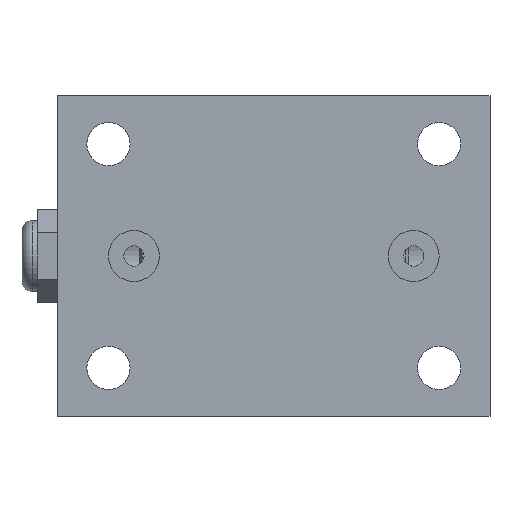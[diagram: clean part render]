
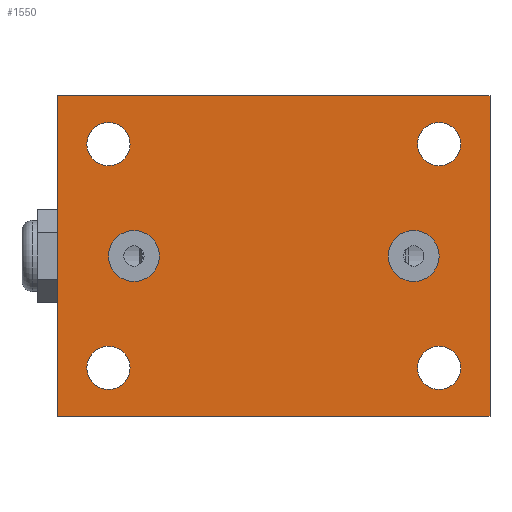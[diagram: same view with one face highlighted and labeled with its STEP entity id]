
A CAD part, front view. The second image highlights one B-rep face of the part: STEP entity #1550.
In plain terms, the highlighted planar face has unit normal (0, -1, 0).
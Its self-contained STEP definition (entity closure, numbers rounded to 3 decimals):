
#11 = CIRCLE ( 'NONE', #1976, 4.25 ) ;
#22 = DIRECTION ( 'NONE',  ( 0., 0., 1. ) ) ;
#25 = EDGE_CURVE ( 'NONE', #1127, #775, #602, .T. ) ;
#35 = CIRCLE ( 'NONE', #270, 4.25 ) ;
#39 = DIRECTION ( 'NONE',  ( 0., 1., 0. ) ) ;
#76 = ORIENTED_EDGE ( 'NONE', *, *, #1899, .F. ) ;
#85 = DIRECTION ( 'NONE',  ( 0., 1., 0. ) ) ;
#94 = CIRCLE ( 'NONE', #1107, 5. ) ;
#95 = ORIENTED_EDGE ( 'NONE', *, *, #1892, .F. ) ;
#103 = FACE_BOUND ( 'NONE', #1316, .T. ) ;
#113 = ORIENTED_EDGE ( 'NONE', *, *, #463, .T. ) ;
#120 = CARTESIAN_POINT ( 'NONE',  ( -32.5, 0., 22. ) ) ;
#140 = ORIENTED_EDGE ( 'NONE', *, *, #2021, .T. ) ;
#142 = ORIENTED_EDGE ( 'NONE', *, *, #25, .F. ) ;
#165 = DIRECTION ( 'NONE',  ( 0., 0., 1. ) ) ;
#181 = CARTESIAN_POINT ( 'NONE',  ( -32.5, 0., -22. ) ) ;
#186 = CARTESIAN_POINT ( 'NONE',  ( -42.5, 0., -31.5 ) ) ;
#204 = DIRECTION ( 'NONE',  ( 0., 0., 1. ) ) ;
#253 = CIRCLE ( 'NONE', #899, 4.25 ) ;
#254 = ORIENTED_EDGE ( 'NONE', *, *, #562, .T. ) ;
#270 = AXIS2_PLACEMENT_3D ( 'NONE', #343, #1177, #1950 ) ;
#275 = DIRECTION ( 'NONE',  ( 0., -1., 0. ) ) ;
#283 = EDGE_CURVE ( 'NONE', #1117, #456, #770, .T. ) ;
#293 = VERTEX_POINT ( 'NONE', #371 ) ;
#307 = CARTESIAN_POINT ( 'NONE',  ( 32.5, 0., -26.25 ) ) ;
#320 = EDGE_CURVE ( 'NONE', #1125, #1442, #11, .T. ) ;
#329 = CIRCLE ( 'NONE', #814, 4.25 ) ;
#343 = CARTESIAN_POINT ( 'NONE',  ( -32.5, 0., -22. ) ) ;
#349 = AXIS2_PLACEMENT_3D ( 'NONE', #601, #758, #1435 ) ;
#360 = DIRECTION ( 'NONE',  ( 0., 0., 1. ) ) ;
#371 = CARTESIAN_POINT ( 'NONE',  ( -42.5, 0., -31.5 ) ) ;
#375 = DIRECTION ( 'NONE',  ( -1., 0., 0. ) ) ;
#391 = PLANE ( 'NONE',  #1588 ) ;
#412 = AXIS2_PLACEMENT_3D ( 'NONE', #120, #85, #1989 ) ;
#442 = DIRECTION ( 'NONE',  ( 0., 0., -1. ) ) ;
#452 = CARTESIAN_POINT ( 'NONE',  ( -27.5, 0., 0. ) ) ;
#456 = VERTEX_POINT ( 'NONE', #922 ) ;
#463 = EDGE_CURVE ( 'NONE', #1825, #1472, #982, .T. ) ;
#483 = FACE_BOUND ( 'NONE', #1486, .T. ) ;
#496 = DIRECTION ( 'NONE',  ( 1., 0., 0. ) ) ;
#508 = EDGE_CURVE ( 'NONE', #293, #825, #964, .T. ) ;
#531 = EDGE_LOOP ( 'NONE', ( #95, #1432, #930, #932 ) ) ;
#540 = CIRCLE ( 'NONE', #412, 4.25 ) ;
#544 = FACE_OUTER_BOUND ( 'NONE', #531, .T. ) ;
#557 = DIRECTION ( 'NONE',  ( 0., 1., 0. ) ) ;
#562 = EDGE_CURVE ( 'NONE', #1442, #1125, #1135, .T. ) ;
#579 = CARTESIAN_POINT ( 'NONE',  ( 27.5, 0., 5. ) ) ;
#589 = EDGE_LOOP ( 'NONE', ( #1819, #113 ) ) ;
#601 = CARTESIAN_POINT ( 'NONE',  ( 27.5, 0., 0. ) ) ;
#602 = CIRCLE ( 'NONE', #349, 5. ) ;
#605 = DIRECTION ( 'NONE',  ( 0., 0., -1. ) ) ;
#642 = VECTOR ( 'NONE', #375, 1000. ) ;
#649 = FACE_BOUND ( 'NONE', #1846, .T. ) ;
#662 = CARTESIAN_POINT ( 'NONE',  ( 32.5, 0., -17.75 ) ) ;
#668 = DIRECTION ( 'NONE',  ( 0., 1., 0. ) ) ;
#696 = CIRCLE ( 'NONE', #1748, 5. ) ;
#706 = AXIS2_PLACEMENT_3D ( 'NONE', #1543, #916, #1990 ) ;
#714 = DIRECTION ( 'NONE',  ( 0., 0., -1. ) ) ;
#724 = FACE_BOUND ( 'NONE', #1773, .T. ) ;
#726 = CARTESIAN_POINT ( 'NONE',  ( -27.5, 0., -5. ) ) ;
#733 = CARTESIAN_POINT ( 'NONE',  ( 32.5, 0., 26.25 ) ) ;
#758 = DIRECTION ( 'NONE',  ( 0., -1., 0. ) ) ;
#770 = CIRCLE ( 'NONE', #1681, 5. ) ;
#775 = VERTEX_POINT ( 'NONE', #1294 ) ;
#814 = AXIS2_PLACEMENT_3D ( 'NONE', #1817, #870, #1676 ) ;
#825 = VERTEX_POINT ( 'NONE', #1644 ) ;
#835 = ORIENTED_EDGE ( 'NONE', *, *, #283, .F. ) ;
#870 = DIRECTION ( 'NONE',  ( 0., 1., 0. ) ) ;
#899 = AXIS2_PLACEMENT_3D ( 'NONE', #1975, #39, #360 ) ;
#903 = VECTOR ( 'NONE', #496, 1000. ) ;
#916 = DIRECTION ( 'NONE',  ( 0., 1., 0. ) ) ;
#922 = CARTESIAN_POINT ( 'NONE',  ( -27.5, 0., 5. ) ) ;
#929 = EDGE_CURVE ( 'NONE', #775, #1127, #696, .T. ) ;
#930 = ORIENTED_EDGE ( 'NONE', *, *, #508, .F. ) ;
#931 = LINE ( 'NONE', #1427, #1484 ) ;
#932 = ORIENTED_EDGE ( 'NONE', *, *, #1021, .F. ) ;
#964 = LINE ( 'NONE', #1190, #1239 ) ;
#982 = CIRCLE ( 'NONE', #1112, 4.25 ) ;
#989 = CARTESIAN_POINT ( 'NONE',  ( 27.5, 0., 0. ) ) ;
#1017 = DIRECTION ( 'NONE',  ( 0., 1., 0. ) ) ;
#1021 = EDGE_CURVE ( 'NONE', #1438, #293, #1959, .T. ) ;
#1054 = DIRECTION ( 'NONE',  ( 0., -1., 0. ) ) ;
#1059 = EDGE_CURVE ( 'NONE', #1954, #1187, #253, .T. ) ;
#1066 = CARTESIAN_POINT ( 'NONE',  ( 42.5, 0., -31.5 ) ) ;
#1072 = VERTEX_POINT ( 'NONE', #1680 ) ;
#1105 = EDGE_CURVE ( 'NONE', #1472, #1825, #540, .T. ) ;
#1107 = AXIS2_PLACEMENT_3D ( 'NONE', #452, #275, #442 ) ;
#1112 = AXIS2_PLACEMENT_3D ( 'NONE', #1203, #1017, #22 ) ;
#1117 = VERTEX_POINT ( 'NONE', #726 ) ;
#1125 = VERTEX_POINT ( 'NONE', #733 ) ;
#1127 = VERTEX_POINT ( 'NONE', #579 ) ;
#1135 = CIRCLE ( 'NONE', #706, 4.25 ) ;
#1151 = DIRECTION ( 'NONE',  ( 0., 0., -1. ) ) ;
#1177 = DIRECTION ( 'NONE',  ( 0., 1., 0. ) ) ;
#1187 = VERTEX_POINT ( 'NONE', #307 ) ;
#1190 = CARTESIAN_POINT ( 'NONE',  ( -42.5, 0., -31.5 ) ) ;
#1203 = CARTESIAN_POINT ( 'NONE',  ( -32.5, 0., 22. ) ) ;
#1237 = VERTEX_POINT ( 'NONE', #1473 ) ;
#1239 = VECTOR ( 'NONE', #1658, 1000. ) ;
#1244 = DIRECTION ( 'NONE',  ( 0., 1., 0. ) ) ;
#1260 = VERTEX_POINT ( 'NONE', #1921 ) ;
#1294 = CARTESIAN_POINT ( 'NONE',  ( 27.5, 0., -5. ) ) ;
#1310 = DIRECTION ( 'NONE',  ( 0., -1., 0. ) ) ;
#1316 = EDGE_LOOP ( 'NONE', ( #1331, #142 ) ) ;
#1331 = ORIENTED_EDGE ( 'NONE', *, *, #929, .F. ) ;
#1336 = FACE_BOUND ( 'NONE', #1730, .T. ) ;
#1340 = EDGE_CURVE ( 'NONE', #1260, #1072, #1937, .T. ) ;
#1364 = CARTESIAN_POINT ( 'NONE',  ( -27.5, 0., 0. ) ) ;
#1427 = CARTESIAN_POINT ( 'NONE',  ( 42.5, 0., -31.5 ) ) ;
#1432 = ORIENTED_EDGE ( 'NONE', *, *, #1973, .F. ) ;
#1435 = DIRECTION ( 'NONE',  ( 0., 0., -1. ) ) ;
#1438 = VERTEX_POINT ( 'NONE', #1066 ) ;
#1442 = VERTEX_POINT ( 'NONE', #1979 ) ;
#1472 = VERTEX_POINT ( 'NONE', #1829 ) ;
#1473 = CARTESIAN_POINT ( 'NONE',  ( 42.5, 0., 31.5 ) ) ;
#1484 = VECTOR ( 'NONE', #605, 1000. ) ;
#1486 = EDGE_LOOP ( 'NONE', ( #835, #76 ) ) ;
#1529 = CARTESIAN_POINT ( 'NONE',  ( 32.5, 0., 22. ) ) ;
#1543 = CARTESIAN_POINT ( 'NONE',  ( 32.5, 0., 22. ) ) ;
#1550 = ADVANCED_FACE ( 'NONE', ( #483, #103, #724, #1336, #1939, #649, #544 ), #391, .F. ) ;
#1570 = DIRECTION ( 'NONE',  ( 0., 0., 1. ) ) ;
#1588 = AXIS2_PLACEMENT_3D ( 'NONE', #1820, #1244, #1570 ) ;
#1620 = EDGE_CURVE ( 'NONE', #1187, #1954, #329, .T. ) ;
#1640 = ORIENTED_EDGE ( 'NONE', *, *, #1620, .T. ) ;
#1644 = CARTESIAN_POINT ( 'NONE',  ( -42.5, 0., 31.5 ) ) ;
#1658 = DIRECTION ( 'NONE',  ( 0., 0., 1. ) ) ;
#1676 = DIRECTION ( 'NONE',  ( 0., 0., 1. ) ) ;
#1680 = CARTESIAN_POINT ( 'NONE',  ( -32.5, 0., -17.75 ) ) ;
#1681 = AXIS2_PLACEMENT_3D ( 'NONE', #1364, #1054, #714 ) ;
#1730 = EDGE_LOOP ( 'NONE', ( #1798, #254 ) ) ;
#1748 = AXIS2_PLACEMENT_3D ( 'NONE', #989, #1310, #1151 ) ;
#1764 = CARTESIAN_POINT ( 'NONE',  ( -42.5, 0., 31.5 ) ) ;
#1773 = EDGE_LOOP ( 'NONE', ( #1987, #1640 ) ) ;
#1798 = ORIENTED_EDGE ( 'NONE', *, *, #320, .T. ) ;
#1817 = CARTESIAN_POINT ( 'NONE',  ( 32.5, 0., -22. ) ) ;
#1819 = ORIENTED_EDGE ( 'NONE', *, *, #1105, .T. ) ;
#1820 = CARTESIAN_POINT ( 'NONE',  ( 0., 0., 0. ) ) ;
#1825 = VERTEX_POINT ( 'NONE', #2017 ) ;
#1829 = CARTESIAN_POINT ( 'NONE',  ( -32.5, 0., 26.25 ) ) ;
#1844 = LINE ( 'NONE', #1764, #903 ) ;
#1846 = EDGE_LOOP ( 'NONE', ( #140, #1863 ) ) ;
#1863 = ORIENTED_EDGE ( 'NONE', *, *, #1340, .T. ) ;
#1892 = EDGE_CURVE ( 'NONE', #1237, #1438, #931, .T. ) ;
#1899 = EDGE_CURVE ( 'NONE', #456, #1117, #94, .T. ) ;
#1921 = CARTESIAN_POINT ( 'NONE',  ( -32.5, 0., -26.25 ) ) ;
#1925 = AXIS2_PLACEMENT_3D ( 'NONE', #181, #668, #165 ) ;
#1937 = CIRCLE ( 'NONE', #1925, 4.25 ) ;
#1939 = FACE_BOUND ( 'NONE', #589, .T. ) ;
#1950 = DIRECTION ( 'NONE',  ( 0., 0., 1. ) ) ;
#1954 = VERTEX_POINT ( 'NONE', #662 ) ;
#1959 = LINE ( 'NONE', #186, #642 ) ;
#1973 = EDGE_CURVE ( 'NONE', #825, #1237, #1844, .T. ) ;
#1975 = CARTESIAN_POINT ( 'NONE',  ( 32.5, 0., -22. ) ) ;
#1976 = AXIS2_PLACEMENT_3D ( 'NONE', #1529, #557, #204 ) ;
#1979 = CARTESIAN_POINT ( 'NONE',  ( 32.5, 0., 17.75 ) ) ;
#1987 = ORIENTED_EDGE ( 'NONE', *, *, #1059, .T. ) ;
#1989 = DIRECTION ( 'NONE',  ( 0., 0., 1. ) ) ;
#1990 = DIRECTION ( 'NONE',  ( 0., 0., 1. ) ) ;
#2017 = CARTESIAN_POINT ( 'NONE',  ( -32.5, 0., 17.75 ) ) ;
#2021 = EDGE_CURVE ( 'NONE', #1072, #1260, #35, .T. ) ;
